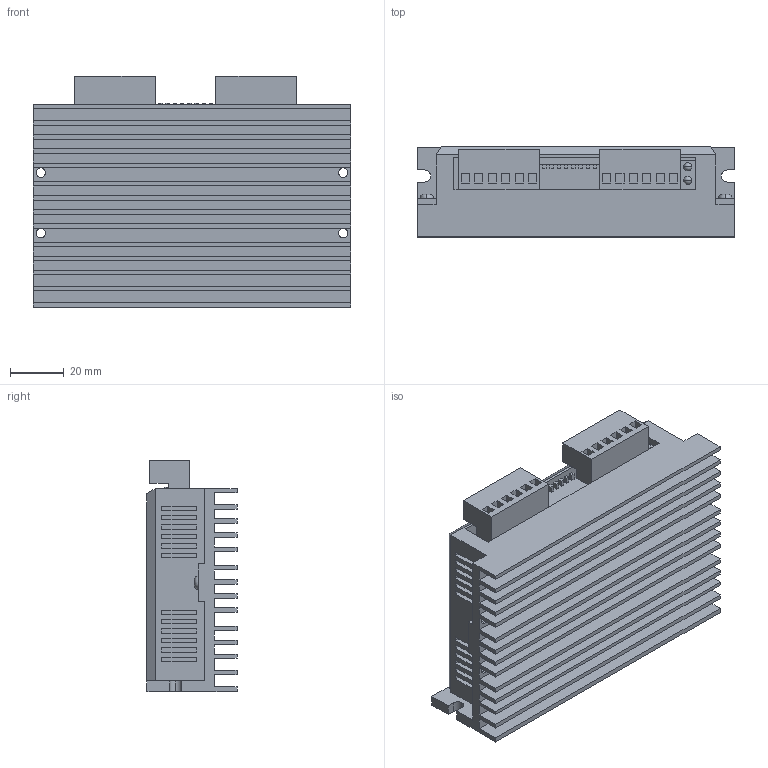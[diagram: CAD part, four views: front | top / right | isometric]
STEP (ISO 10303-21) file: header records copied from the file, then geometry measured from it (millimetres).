
FILE_DESCRIPTION (( 'STEP AP203' ), '1' );
FILE_NAME ('R57.STEP', '2023-10-16T06:58:39', ( '' ), ( '' ), 'SwSTEP 2.0', 'SolidWorks 2020', '' );
FILE_SCHEMA (( 'CONFIG_CONTROL_DESIGN' ));
Length unit declared in the file: millimetre
Products named in the file (1): R57
Bounding box: 118 x 33.5 x 86 mm (x, y, z)
Volume: 227169.8 mm3; surface area: 62573.3 mm2
Topology: 1 solids, 1 shells, 394 faces, 986 edges, 651 vertices
Faces by surface type: plane 343, cylinder 43, torus 4, sphere 4
Entity records: 11613 total; most frequent: CARTESIAN_POINT 2020, ORIENTED_EDGE 1956, DIRECTION 1866, EDGE_CURVE 978, LINE 880, VECTOR 880, VERTEX_POINT 647, AXIS2_PLACEMENT_3D 493
